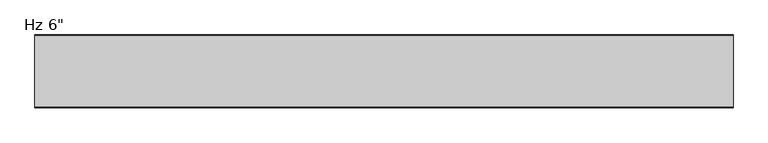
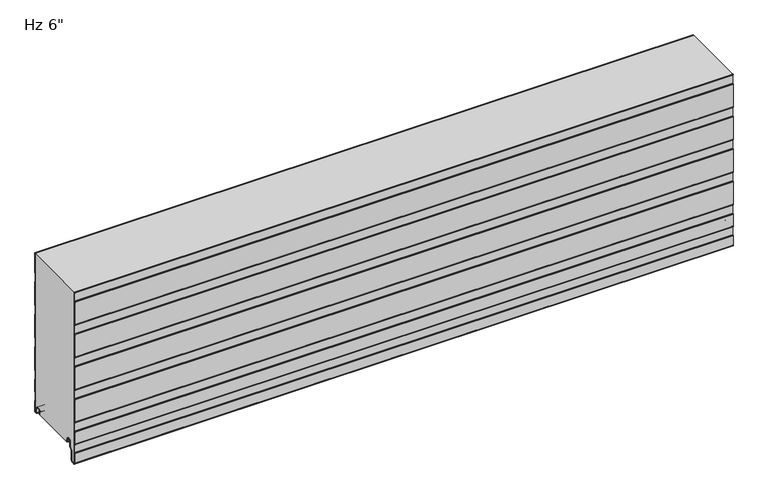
"""IFC4 building model written with IfcOpenShell, lengths in millimetres: plate geometry."""

from ifc_helpers import new_model, si_unit, point, frame, frame_2d, origin, place, context, project, spatial, polyline, circle_curve, trimmed, segment, composite_curve, outline, extrude, source, transform, mapped, element, save
from ifc_brep_helpers import plane_surface, cylinder_surface, revolved_surface, advanced_brep


def plate_0e54a912(model_context):
    return source(origin(), model_context, "Body", "SolidModel", [
        extrude(outline(composite_curve([segment(trimmed(circle_curve(frame_2d((-150.9998717, -10.6415934)), 1.3998661), [point((-152.3997378, -10.6415934))], [point((-151.9324955, -9.5976403))], False, "CARTESIAN"), True, "CONTINUOUS"), segment(polyline([(-151.9324955, -9.5976403), (-151.1997693, -8.8649141), (-151.1997693, 10.0260713), (-151.9327349, 10.7590369)]), True, "CONTINUOUS"), segment(trimmed(circle_curve(frame_2d((-151.0000237, 11.8030877)), 1.3999972), [point((-151.9327349, 10.7590369))], [point((-152.4, 11.810741))], False, "CARTESIAN"), True, "CONTINUOUS"), segment(polyline([(-152.4, 11.810741), (-152.4, 40.1582542)]), True, "CONTINUOUS"), segment(trimmed(circle_curve(frame_2d((-151.0000028, 40.1582542)), 1.3999972), [point((-152.4, 40.1582542))], [point((-151.932714, 41.202305))], False, "CARTESIAN"), True, "CONTINUOUS"), segment(polyline([(-151.932714, 41.202305), (-151.1997693, 41.9352497), (-151.1997693, 60.8259189), (-151.9327349, 61.5588845)]), True, "CONTINUOUS"), segment(trimmed(circle_curve(frame_2d((-151.0000237, 62.6029353)), 1.3999972), [point((-151.9327349, 61.5588845))], [point((-152.4, 62.6105886))], False, "CARTESIAN"), True, "CONTINUOUS"), segment(polyline([(-152.4, 62.6105886), (-152.4, 116.3581018)]), True, "CONTINUOUS"), segment(trimmed(circle_curve(frame_2d((-151.0000028, 116.3581018)), 1.3999972), [point((-152.4, 116.3581018))], [point((-151.932714, 117.4021526))], False, "CARTESIAN"), True, "CONTINUOUS"), segment(polyline([(-151.932714, 117.4021526), (-151.1997693, 118.1350973), (-151.1997693, 137.0257665), (-151.9327349, 137.7587321)]), True, "CONTINUOUS"), segment(trimmed(circle_curve(frame_2d((-151.0000237, 138.8027829)), 1.3999972), [point((-151.9327349, 137.7587321))], [point((-152.4, 138.8104362))], False, "CARTESIAN"), True, "CONTINUOUS"), segment(polyline([(-152.4, 138.8104362), (-152.4, 192.5579494)]), True, "CONTINUOUS"), segment(trimmed(circle_curve(frame_2d((-151.0000028, 192.5579494)), 1.3999972), [point((-152.4, 192.5579494))], [point((-151.932714, 193.6020002))], False, "CARTESIAN"), True, "CONTINUOUS"), segment(polyline([(-151.932714, 193.6020002), (-151.1997693, 194.3349449), (-151.1997693, 213.2256141), (-151.9327349, 213.9585797)]), True, "CONTINUOUS"), segment(trimmed(circle_curve(frame_2d((-151.0000237, 215.0026305)), 1.3999972), [point((-151.9327349, 213.9585797))], [point((-152.4, 215.0102838))], False, "CARTESIAN"), True, "CONTINUOUS"), segment(polyline([(-152.4, 215.0102838), (-152.4, 268.757797)]), True, "CONTINUOUS"), segment(trimmed(circle_curve(frame_2d((-151.0000028, 268.757797)), 1.3999972), [point((-152.4, 268.757797))], [point((-151.932714, 269.8018478))], False, "CARTESIAN"), True, "CONTINUOUS"), segment(polyline([(-151.932714, 269.8018478), (-151.1997693, 270.5347925), (-151.1997693, 289.4254617), (-151.9327349, 290.1584273)]), True, "CONTINUOUS"), segment(trimmed(circle_curve(frame_2d((-151.0000237, 291.2024781)), 1.3999972), [point((-151.9327349, 290.1584273))], [point((-152.4, 291.2101314))], False, "CARTESIAN"), True, "CONTINUOUS"), segment(polyline([(-152.4, 291.2101314), (-152.4, 344.9576446)]), True, "CONTINUOUS"), segment(trimmed(circle_curve(frame_2d((-151.0000028, 344.9576446)), 1.3999972), [point((-152.4, 344.9576446))], [point((-151.932714, 346.0016954))], False, "CARTESIAN"), True, "CONTINUOUS"), segment(polyline([(-151.932714, 346.0016954), (-151.1997693, 346.7346401), (-151.1997693, 365.6253093), (-151.9327349, 366.3582749)]), True, "CONTINUOUS"), segment(trimmed(circle_curve(frame_2d((-151.0000237, 367.4023257)), 1.3999972), [point((-151.9327349, 366.3582749))], [point((-152.4, 367.409979))], False, "CARTESIAN"), True, "CONTINUOUS"), segment(polyline([(-152.4, 367.409979), (-152.4, 368.0), (-151.4, 368.0), (-151.4, 367.240544), (-150.1997693, 366.0403133), (-150.1997693, 346.3209008), (-151.4, 345.1206701), (-151.4, 291.0405383), (-150.1997693, 289.8403076), (-150.1997693, 270.1208951), (-151.4, 268.9206644), (-151.4, 214.8405326), (-150.1997693, 213.6403019), (-150.1997693, 193.9208894), (-151.4, 192.7206587), (-151.4, 138.6405269), (-150.1997693, 137.4402962), (-150.1997693, 117.7208837), (-151.4, 116.520653), (-151.4, 62.4405213), (-150.1997693, 61.2402905), (-150.1997693, 41.520878), (-151.4, 40.3206473), (-151.4, 11.6405156), (-150.1997693, 10.4402849), (-150.1997693, -9.2791277), (-151.3997378, -10.4790962), (-151.3997378, -32.4521176)]), True, "CONTINUOUS"), segment(trimmed(circle_curve(frame_2d((-148.8294985, -32.4521176)), 2.5702393), [point((-151.3997378, -32.4521176))], [point((-148.6054129, -35.0125699))], True, "CARTESIAN"), True, "CONTINUOUS"), segment(polyline([(-148.6054129, -35.0125699), (-143.623592, -34.5765709)]), True, "CONTINUOUS"), segment(trimmed(circle_curve(frame_2d((-144.1049826, -31.9198392)), 2.6999926), [point((-143.623592, -34.5765709))], [point((-141.40499, -31.9198392))], True, "CARTESIAN"), True, "CONTINUOUS"), segment(polyline([(-141.40499, -31.9198392), (-141.40499, -9.8247096), (-135.9029189, -4.3226385)]), True, "CONTINUOUS"), segment(trimmed(circle_curve(frame_2d((-137.1049966, -3.1205608)), 1.6999946), [point((-135.9029189, -4.3226385))], [point((-135.405002, -3.1205608))], True, "CARTESIAN"), True, "CONTINUOUS"), segment(polyline([(-135.405002, -3.1205608), (-135.405002, 8.6903283)]), True, "CONTINUOUS"), segment(trimmed(circle_curve(frame_2d((-132.0550067, 8.6903283)), 3.3499953), [point((-135.405002, 8.6903283))], [point((-132.0550067, 12.0403236))], False, "CARTESIAN"), True, "CONTINUOUS"), segment(polyline([(-132.0550067, 12.0403236), (-127.6550155, 12.0403236)]), True, "CONTINUOUS"), segment(trimmed(circle_curve(frame_2d((-127.6550155, 8.6903283)), 3.3499953), [point((-127.6550155, 12.0403236))], [point((-124.3050202, 8.6903283))], False, "CARTESIAN"), True, "CONTINUOUS"), segment(polyline([(-124.3050202, 8.6903283), (-124.3050202, 5.9912173), (-122.9065413, 5.9912173), (-122.9065413, 2.2328239)]), True, "CONTINUOUS"), segment(trimmed(circle_curve(frame_2d((-124.106538, 2.2313092)), 1.1999976), [point((-122.9065413, 2.2328239))], [point((-124.0760161, 1.0316999))], False, "CARTESIAN"), True, "CONTINUOUS"), segment(trimmed(circle_curve(frame_2d((-124.106538, 2.2313092)), 1.1999976), [point((-124.0760161, 1.0316999))], [point((-125.3050202, 2.1710221))], False, "CARTESIAN"), True, "CONTINUOUS"), segment(polyline([(-125.3050202, 2.1710221), (-125.3050202, 8.6903283)]), True, "CONTINUOUS"), segment(trimmed(circle_curve(frame_2d((-127.6550155, 8.6903283)), 2.3499953), [point((-125.3050202, 8.6903283))], [point((-127.6550155, 11.0403236))], True, "CARTESIAN"), True, "CONTINUOUS"), segment(polyline([(-127.6550155, 11.0403236), (-132.0550067, 11.0403236)]), True, "CONTINUOUS"), segment(trimmed(circle_curve(frame_2d((-132.0550067, 8.6903283)), 2.3499953), [point((-132.0550067, 11.0403236))], [point((-134.405002, 8.6903283))], True, "CARTESIAN"), True, "CONTINUOUS"), segment(polyline([(-134.405002, 8.6903283), (-134.405002, -3.1205608)]), True, "CONTINUOUS"), segment(trimmed(circle_curve(frame_2d((-137.1049966, -3.1205608)), 2.6999946), [point((-134.405002, -3.1205608))], [point((-135.1958121, -5.0297453))], False, "CARTESIAN"), True, "CONTINUOUS"), segment(polyline([(-135.1958121, -5.0297453), (-140.0242296, -9.8581627)]), True, "CONTINUOUS"), segment(trimmed(circle_curve(frame_2d((-139.1049926, -10.7773997)), 1.2999974), [point((-140.0242296, -9.8581627))], [point((-140.40499, -10.7773997))], True, "CARTESIAN"), True, "CONTINUOUS"), segment(polyline([(-140.40499, -10.7773997), (-140.40499, -31.9198392)]), True, "CONTINUOUS"), segment(trimmed(circle_curve(frame_2d((-144.1049826, -31.9198392)), 3.6999926), [point((-140.40499, -31.9198392))], [point((-143.4941815, -35.5690675))], False, "CARTESIAN"), True, "CONTINUOUS"), segment(polyline([(-143.4941815, -35.5690675), (-148.5182281, -36.008762)]), True, "CONTINUOUS"), segment(trimmed(circle_curve(frame_2d((-148.8294985, -32.4521176)), 3.5702393), [point((-148.5182281, -36.008762))], [point((-152.3997378, -32.4521176))], False, "CARTESIAN"), True, "CONTINUOUS"), segment(polyline([(-152.3997378, -32.4521176), (-152.3997378, -10.6415934)]), True, "CONTINUOUS")], self_intersect=False)), frame((-730.0, 0.0, 0.0), z_axis=(1.0, 0.0, 0.0), x_axis=(0.0, 1.0, 0.0)), (0.0, 0.0, 1.0), 1460.0),
        advanced_brep(
        [(-730.0, -17.0015159, 2.0313088), (-730.0, -18.0015191, 1.0313115), (-730.0, -19.0015105, 2.0313088), (-730.0, -19.0015105, 6.0315124), (-730.0, -18.0015159, 6.0315124), (-730.0, -18.0015159, 8.7237222), (-730.0, -14.7015202, 12.0237179), (-730.0, -10.301529, 12.0237179), (-730.0, -7.0015335, 8.7237224), (-730.0, -7.0015335, -1.6962565), (-730.0, -5.2315393, -3.4662507), (-730.0, -0.9999916, -3.4662507), (-730.0, -0.9999916, 21.034026), (-730.0, -2.2002307, 22.4196686), (-730.0, -2.2002307, 41.7948349), (-730.0, -1.0, 43.1804678), (-730.0, -1.0, 71.8338832), (-730.0, -2.2002307, 73.2195162), (-730.0, -2.2002307, 92.5946825), (-730.0, -1.0, 93.9803154), (-730.0, -1.0, 148.0337308), (-730.0, -2.2002307, 149.4193638), (-730.0, -2.2002307, 168.7945301), (-730.0, -1.0, 170.180163), (-730.0, -1.0, 224.2335784), (-730.0, -2.2002307, 225.6192114), (-730.0, -2.2002307, 244.9943777), (-730.0, -1.0, 246.3800106), (-730.0, -1.0, 300.433426), (-730.0, -2.2002307, 301.819059), (-730.0, -2.2002307, 321.1942253), (-730.0, -1.0, 322.5798582), (-730.0, -1.0, 368.0), (-730.0, 0.0, 368.0), (-730.0, 0.0, 322.7290094), (-730.0, -0.3417885, 321.8123925), (-730.0, -1.2002307, 320.8213449), (-730.0, -1.2002307, 302.1919394), (-730.0, -0.3417885, 301.2008918), (-730.0, 0.0, 300.2842749), (-730.0, 0.0, 246.5291618), (-730.0, -0.3417885, 245.6125449), (-730.0, -1.2002307, 244.6214973), (-730.0, -1.2002307, 225.9920918), (-730.0, -0.3417885, 225.0010442), (-730.0, 0.0, 224.0844273), (-730.0, 0.0, 170.3293142), (-730.0, -0.3417885, 169.4126973), (-730.0, -1.2002307, 168.4216497), (-730.0, -1.2002307, 149.7922442), (-730.0, -0.3417885, 148.8011966), (-730.0, 0.0, 147.8845797), (-730.0, 0.0, 94.1294666), (-730.0, -0.3417885, 93.2128497), (-730.0, -1.2002307, 92.2218021), (-730.0, -1.2002307, 73.5923966), (-730.0, -0.3417885, 72.601349), (-730.0, 0.0, 71.6847321), (-730.0, 0.0, 43.329619), (-730.0, -0.3417885, 42.4130021), (-730.0, -1.2002307, 41.4219545), (-730.0, -1.2002307, 22.792549), (-730.0, -0.3417885, 21.8015014), (-730.0, 0.0, 20.8847931), (-730.0, 8.4e-06, -3.0662545), (-730.0, -1.3999878, -4.4662507), (-730.0, -5.2315393, -4.4662507), (-730.0, -8.0015335, -1.6962565), (-730.0, -8.0015335, 8.7237224), (-730.0, -10.301529, 11.0237179), (-730.0, -14.7015202, 11.0237179), (-730.0, -17.0015159, 8.7237222), (730.0, -17.0015159, 2.0313088), (730.0, -17.0015159, 8.7237222), (730.0, -14.7015202, 11.0237179), (730.0, -10.301529, 11.0237179), (730.0, -8.0015335, 8.7237224), (730.0, -8.0015335, -1.6962565), (730.0, -5.2315393, -4.4662507), (730.0, -1.3999878, -4.4662507), (730.0, 8.4e-06, -3.0662545), (730.0, 8.4e-06, 20.8848845), (730.0, -0.3417885, 21.8015014), (730.0, -1.2002307, 22.792549), (730.0, -1.2002307, 41.4219545), (730.0, -0.3417885, 42.4130021), (730.0, 0.0, 43.329619), (730.0, 0.0, 71.6847321), (730.0, -0.3417885, 72.601349), (730.0, -1.2002307, 73.5923966), (730.0, -1.2002307, 92.2218021), (730.0, -0.3417885, 93.2128497), (730.0, 0.0, 94.1294666), (730.0, 0.0, 147.8845797), (730.0, -0.3417885, 148.8011966), (730.0, -1.2002307, 149.7922442), (730.0, -1.2002307, 168.4216497), (730.0, -0.3417885, 169.4126973), (730.0, 0.0, 170.3293142), (730.0, 0.0, 224.0844273), (730.0, -0.3417885, 225.0010442), (730.0, -1.2002307, 225.9920918), (730.0, -1.2002307, 244.6214973), (730.0, -0.3417885, 245.6125449), (730.0, 0.0, 246.5291618), (730.0, 0.0, 300.2842749), (730.0, -0.3417885, 301.2008918), (730.0, -1.2002307, 302.1919394), (730.0, -1.2002307, 320.8213449), (730.0, -0.3417885, 321.8123925), (730.0, 0.0, 322.7290094), (730.0, 0.0, 368.0), (730.0, -1.0, 368.0), (730.0, -1.0, 322.5798582), (730.0, -2.2002307, 321.1942253), (730.0, -2.2002307, 301.819059), (730.0, -1.0, 300.433426), (730.0, -1.0, 246.3800106), (730.0, -2.2002307, 244.9943777), (730.0, -2.2002307, 225.6192114), (730.0, -1.0, 224.2335784), (730.0, -1.0, 170.180163), (730.0, -2.2002307, 168.7945301), (730.0, -2.2002307, 149.4193638), (730.0, -1.0, 148.0337308), (730.0, -1.0, 93.9803154), (730.0, -2.2002307, 92.5946825), (730.0, -2.2002307, 73.2195162), (730.0, -1.0, 71.8338832), (730.0, -1.0, 43.1804678), (730.0, -2.2002307, 41.7948349), (730.0, -2.2002307, 22.4196686), (730.0, -0.9999916, 21.034026), (730.0, -0.9999916, -3.4662507), (730.0, -5.2315393, -3.4662507), (730.0, -7.0015335, -1.6962565), (730.0, -7.0015335, 8.7237224), (730.0, -10.301529, 12.0237179), (730.0, -14.7015202, 12.0237179), (730.0, -18.0015159, 8.7237222), (730.0, -18.0015159, 6.0315124), (730.0, -19.0015105, 6.0315124), (730.0, -19.0015105, 2.0313088), (730.0, -18.0015192, 1.0313116)],
        [
            (0, 1, circle_curve(frame((-730.0, -18.0015132, 2.0313088), z_axis=(-1.0, 0.0, 0.0), x_axis=(0.0, 0.0, 1.0)), 0.9999973)),
            (1, 2, circle_curve(frame((-730.0, -18.0015133, 2.0313088), z_axis=(-1.0, 0.0, 0.0), x_axis=(0.0, 0.0, 1.0)), 0.9999972)),
            (2, 3),
            (3, 4),
            (4, 5),
            (5, 6, circle_curve(frame((-730.0, -14.7015202, 8.7237222), z_axis=(-1.0, 0.0, 0.0), x_axis=(0.0, 0.0, 1.0)), 3.2999957)),
            (6, 7),
            (7, 8, circle_curve(frame((-730.0, -10.301529, 8.7237224), z_axis=(-1.0, 0.0, 0.0), x_axis=(0.0, 0.0, 1.0)), 3.2999955)),
            (8, 9),
            (9, 10, circle_curve(frame((-730.0, -5.2315393, -1.6962565), z_axis=(1.0, 0.0, 0.0), x_axis=(0.0, 0.0, 1.0)), 1.7699942)),
            (10, 11),
            (11, 12),
            (12, 13),
            (13, 14),
            (14, 15),
            (15, 16),
            (16, 17),
            (17, 18),
            (18, 19),
            (19, 20),
            (20, 21),
            (21, 22),
            (22, 23),
            (23, 24),
            (24, 25),
            (25, 26),
            (26, 27),
            (27, 28),
            (28, 29),
            (29, 30),
            (30, 31),
            (31, 32),
            (32, 33),
            (33, 34),
            (34, 35, circle_curve(frame((-730.0, -1.3999972, 322.7290094), z_axis=(-1.0, 0.0, 0.0), x_axis=(0.0, 0.0, 1.0)), 1.3999972)),
            (35, 36),
            (36, 37),
            (37, 38),
            (38, 39, circle_curve(frame((-730.0, -1.3999972, 300.2842749), z_axis=(-1.0, 0.0, 0.0), x_axis=(0.0, 0.0, 1.0)), 1.3999972)),
            (39, 40),
            (40, 41, circle_curve(frame((-730.0, -1.3999972, 246.5291618), z_axis=(-1.0, 0.0, 0.0), x_axis=(0.0, 0.0, 1.0)), 1.3999972)),
            (41, 42),
            (42, 43),
            (43, 44),
            (44, 45, circle_curve(frame((-730.0, -1.3999972, 224.0844273), z_axis=(-1.0, 0.0, 0.0), x_axis=(0.0, 0.0, 1.0)), 1.3999972)),
            (45, 46),
            (46, 47, circle_curve(frame((-730.0, -1.3999972, 170.3293142), z_axis=(-1.0, 0.0, 0.0), x_axis=(0.0, 0.0, 1.0)), 1.3999972)),
            (47, 48),
            (48, 49),
            (49, 50),
            (50, 51, circle_curve(frame((-730.0, -1.3999972, 147.8845797), z_axis=(-1.0, 0.0, 0.0), x_axis=(0.0, 0.0, 1.0)), 1.3999972)),
            (51, 52),
            (52, 53, circle_curve(frame((-730.0, -1.3999972, 94.1294666), z_axis=(-1.0, 0.0, 0.0), x_axis=(0.0, 0.0, 1.0)), 1.3999972)),
            (53, 54),
            (54, 55),
            (55, 56),
            (56, 57, circle_curve(frame((-730.0, -1.3999972, 71.6847321), z_axis=(-1.0, 0.0, 0.0), x_axis=(0.0, 0.0, 1.0)), 1.3999972)),
            (57, 58),
            (58, 59, circle_curve(frame((-730.0, -1.3999972, 43.329619), z_axis=(-1.0, 0.0, 0.0), x_axis=(0.0, 0.0, 1.0)), 1.3999972)),
            (59, 60),
            (60, 61),
            (61, 62),
            (62, 63, circle_curve(frame((-730.0, -1.3999972, 20.8848845), z_axis=(-1.0, 0.0, 0.0), x_axis=(0.0, 0.0, 1.0)), 1.3999972)),
            (63, 64),
            (64, 65, circle_curve(frame((-730.0, -1.3999878, -3.0662545), z_axis=(-1.0, 0.0, 0.0), x_axis=(0.0, 0.0, 1.0)), 1.3999962)),
            (65, 66),
            (66, 67, circle_curve(frame((-730.0, -5.2315393, -1.6962565), z_axis=(-1.0, 0.0, 0.0), x_axis=(0.0, 0.0, 1.0)), 2.7699942)),
            (67, 68),
            (68, 69, circle_curve(frame((-730.0, -10.301529, 8.7237224), z_axis=(1.0, 0.0, 0.0), x_axis=(0.0, 0.0, 1.0)), 2.2999955)),
            (69, 70),
            (70, 71, circle_curve(frame((-730.0, -14.7015202, 8.7237222), z_axis=(1.0, 0.0, 0.0), x_axis=(0.0, 0.0, 1.0)), 2.2999957)),
            (71, 0),
            (72, 73),
            (73, 74, circle_curve(frame((730.0, -14.7015202, 8.7237222), z_axis=(-1.0, 0.0, 0.0), x_axis=(0.0, 0.0, 1.0)), 2.2999957)),
            (74, 75),
            (75, 76, circle_curve(frame((730.0, -10.301529, 8.7237224), z_axis=(-1.0, 0.0, 0.0), x_axis=(0.0, 0.0, 1.0)), 2.2999955)),
            (76, 77),
            (77, 78, circle_curve(frame((730.0, -5.2315393, -1.6962565), z_axis=(1.0, 0.0, 0.0), x_axis=(0.0, 0.0, 1.0)), 2.7699942)),
            (78, 79),
            (79, 80, circle_curve(frame((730.0, -1.3999878, -3.0662545), z_axis=(1.0, 0.0, 0.0), x_axis=(0.0, 0.0, 1.0)), 1.3999962)),
            (80, 81),
            (81, 82, circle_curve(frame((730.0, -1.3999972, 20.8848845), z_axis=(1.0, 0.0, 0.0), x_axis=(0.0, 0.0, 1.0)), 1.3999972)),
            (82, 83),
            (83, 84),
            (84, 85),
            (85, 86, circle_curve(frame((730.0, -1.3999972, 43.329619), z_axis=(1.0, 0.0, 0.0), x_axis=(0.0, 0.0, 1.0)), 1.3999972)),
            (86, 87),
            (87, 88, circle_curve(frame((730.0, -1.3999972, 71.6847321), z_axis=(1.0, 0.0, 0.0), x_axis=(0.0, 0.0, 1.0)), 1.3999972)),
            (88, 89),
            (89, 90),
            (90, 91),
            (91, 92, circle_curve(frame((730.0, -1.3999972, 94.1294666), z_axis=(1.0, 0.0, 0.0), x_axis=(0.0, 0.0, 1.0)), 1.3999972)),
            (92, 93),
            (93, 94, circle_curve(frame((730.0, -1.3999972, 147.8845797), z_axis=(1.0, 0.0, 0.0), x_axis=(0.0, 0.0, 1.0)), 1.3999972)),
            (94, 95),
            (95, 96),
            (96, 97),
            (97, 98, circle_curve(frame((730.0, -1.3999972, 170.3293142), z_axis=(1.0, 0.0, 0.0), x_axis=(0.0, 0.0, 1.0)), 1.3999972)),
            (98, 99),
            (99, 100, circle_curve(frame((730.0, -1.3999972, 224.0844273), z_axis=(1.0, 0.0, 0.0), x_axis=(0.0, 0.0, 1.0)), 1.3999972)),
            (100, 101),
            (101, 102),
            (102, 103),
            (103, 104, circle_curve(frame((730.0, -1.3999972, 246.5291618), z_axis=(1.0, 0.0, 0.0), x_axis=(0.0, 0.0, 1.0)), 1.3999972)),
            (104, 105),
            (105, 106, circle_curve(frame((730.0, -1.3999972, 300.2842749), z_axis=(1.0, 0.0, 0.0), x_axis=(0.0, 0.0, 1.0)), 1.3999972)),
            (106, 107),
            (107, 108),
            (108, 109),
            (109, 110, circle_curve(frame((730.0, -1.3999972, 322.7290094), z_axis=(1.0, 0.0, 0.0), x_axis=(0.0, 0.0, 1.0)), 1.3999972)),
            (110, 111),
            (111, 112),
            (112, 113),
            (113, 114),
            (114, 115),
            (115, 116),
            (116, 117),
            (117, 118),
            (118, 119),
            (119, 120),
            (120, 121),
            (121, 122),
            (122, 123),
            (123, 124),
            (124, 125),
            (125, 126),
            (126, 127),
            (127, 128),
            (128, 129),
            (129, 130),
            (130, 131),
            (131, 132),
            (132, 133),
            (133, 134),
            (134, 135, circle_curve(frame((730.0, -5.2315393, -1.6962565), z_axis=(-1.0, 0.0, 0.0), x_axis=(0.0, 0.0, 1.0)), 1.7699942)),
            (135, 136),
            (136, 137, circle_curve(frame((730.0, -10.301529, 8.7237224), z_axis=(1.0, 0.0, 0.0), x_axis=(0.0, 0.0, 1.0)), 3.2999955)),
            (137, 138),
            (138, 139, circle_curve(frame((730.0, -14.7015202, 8.7237222), z_axis=(1.0, 0.0, 0.0), x_axis=(0.0, 0.0, 1.0)), 3.2999957)),
            (139, 140),
            (140, 141),
            (141, 142),
            (142, 143, circle_curve(frame((730.0, -18.0015133, 2.0313088), z_axis=(1.0, 0.0, 0.0), x_axis=(0.0, 0.0, 1.0)), 0.9999972)),
            (143, 72, circle_curve(frame((730.0, -18.0015132, 2.0313088), z_axis=(1.0, 0.0, 0.0), x_axis=(0.0, 0.0, 1.0)), 0.9999973)),
            (32, 112),
            (111, 33),
            (67, 77),
            (76, 68),
            (0, 72),
            (143, 1),
            (71, 73),
            (70, 74),
            (75, 69),
            (65, 79),
            (78, 66),
            (64, 80),
            (63, 81),
            (2, 142),
            (141, 3),
            (56, 88),
            (87, 57),
            (61, 83),
            (82, 62),
            (60, 84),
            (58, 86),
            (85, 59),
            (50, 94),
            (93, 51),
            (54, 90),
            (89, 55),
            (52, 92),
            (91, 53),
            (44, 100),
            (99, 45),
            (48, 96),
            (95, 49),
            (46, 98),
            (97, 47),
            (38, 106),
            (105, 39),
            (42, 102),
            (101, 43),
            (40, 104),
            (103, 41),
            (36, 108),
            (107, 37),
            (34, 110),
            (109, 35),
            (27, 117),
            (116, 28),
            (115, 29),
            (114, 30),
            (113, 31),
            (26, 118),
            (25, 119),
            (24, 120),
            (23, 121),
            (22, 122),
            (21, 123),
            (20, 124),
            (19, 125),
            (18, 126),
            (17, 127),
            (16, 128),
            (15, 129),
            (14, 130),
            (140, 4),
            (139, 5),
            (138, 6),
            (137, 7),
            (136, 8),
            (135, 9),
            (12, 132),
            (131, 13),
            (11, 133),
            (10, 134),
        ],
        [
            plane_surface(frame((-730.0, 0.0, 508.0), z_axis=(-1.0, 0.0, 0.0), x_axis=(0.0, 1.0, 0.0))),
            plane_surface(frame((730.0, 0.0, 508.0), z_axis=(1.0, 0.0, 0.0), x_axis=(0.0, 1.0, 0.0))),
            plane_surface(frame((730.0, 10.0, 368.0), z_axis=(0.0, 0.0, 1.0), x_axis=(-1.0, 0.0, 0.0))),
            plane_surface(frame((-730.0, -8.0015335, 8.7237224), z_axis=(0.0, -1.0, 0.0), x_axis=(1.0, 0.0, 0.0))),
            cylinder_surface(frame((-730.0, -18.0015132, 2.0313088), z_axis=(-1.0, 0.0, 0.0), x_axis=(0.0, 0.0, 1.0)), 0.9999973),
            plane_surface(frame((-730.0, -17.0015159, 2.0313088), z_axis=(0.0, 1.0, 0.0), x_axis=(1.0, 0.0, 0.0))),
            revolved_surface(polyline([(730.0, -14.7015202, 11.0237179), (-730.0, -14.7015202, 11.0237179)]), (-730.0, -14.7015202, 8.7237222), (1.0, 0.0, 0.0)),
            revolved_surface(polyline([(730.0, -10.301529, 11.0237179), (-730.0, -10.301529, 11.0237179)]), (-730.0, -10.301529, 8.7237224), (1.0, 0.0, 0.0)),
            plane_surface(frame((-730.0, -14.7015202, 11.0237179), z_axis=(0.0, 0.0, -1.0), x_axis=(1.0, 0.0, 0.0))),
            plane_surface(frame((-730.0, -5.2315393, -4.4662507), z_axis=(0.0, 0.0, -1.0), x_axis=(1.0, 0.0, 0.0))),
            cylinder_surface(frame((-730.0, -1.3999878, -3.0662545), z_axis=(-1.0, 0.0, 0.0), x_axis=(0.0, 0.0, 1.0)), 1.3999962),
            cylinder_surface(frame((-730.0, -5.2315393, -1.6962565), z_axis=(-1.0, 0.0, 0.0), x_axis=(0.0, 0.0, 1.0)), 2.7699942),
            plane_surface(frame((-730.0, 8.4e-06, -3.0662545), z_axis=(0.0, 1.0, 0.0), x_axis=(1.0, 0.0, 0.0))),
            plane_surface(frame((-730.0, -19.0015105, 6.0315124), z_axis=(0.0, -1.0, 0.0), x_axis=(1.0, 0.0, 0.0))),
            cylinder_surface(frame((-730.0, -18.0015133, 2.0313088), z_axis=(-1.0, 0.0, 0.0), x_axis=(0.0, 0.0, 1.0)), 0.9999972),
            cylinder_surface(frame((-730.0, -1.3999972, 71.6847321), z_axis=(-1.0, 0.0, 0.0), x_axis=(0.0, 0.0, 1.0)), 1.3999972),
            plane_surface(frame((-730.0, -0.3417885, 21.8015014), z_axis=(0.0, 0.755864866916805, 0.6547276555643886), x_axis=(1.0, 0.0, 0.0))),
            plane_surface(frame((-730.0, -1.2002307, 32.1072517), z_axis=(0.0, 1.0, 0.0), x_axis=(1.0, 0.0, 0.0))),
            cylinder_surface(frame((-730.0, -1.3999972, 20.8848845), z_axis=(-1.0, 0.0, 0.0), x_axis=(0.0, 0.0, 1.0)), 1.3999972),
            cylinder_surface(frame((-730.0, -1.3999972, 43.329619), z_axis=(-1.0, 0.0, 0.0), x_axis=(0.0, 0.0, 1.0)), 1.3999972),
            plane_surface(frame((-730.0, -1.2002307, 41.4219545), z_axis=(0.0, 0.755864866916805, -0.6547276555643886), x_axis=(1.0, 0.0, 0.0))),
            cylinder_surface(frame((-730.0, -1.3999972, 147.8845797), z_axis=(-1.0, 0.0, 0.0), x_axis=(0.0, 0.0, 1.0)), 1.3999972),
            plane_surface(frame((-730.0, -1.2002307, 82.9070993), z_axis=(0.0, 1.0, 0.0), x_axis=(1.0, 0.0, 0.0))),
            cylinder_surface(frame((-730.0, -1.3999972, 94.1294666), z_axis=(-1.0, 0.0, 0.0), x_axis=(0.0, 0.0, 1.0)), 1.3999972),
            plane_surface(frame((-730.0, -0.3417885, 72.601349), z_axis=(0.0, 0.755864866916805, 0.6547276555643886), x_axis=(1.0, 0.0, 0.0))),
            plane_surface(frame((-730.0, -1.2002307, 92.2218021), z_axis=(0.0, 0.755864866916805, -0.6547276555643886), x_axis=(1.0, 0.0, 0.0))),
            plane_surface(frame((-730.0, 0.0, 43.329619), z_axis=(0.0, 1.0, 0.0), x_axis=(1.0, 0.0, 0.0))),
            cylinder_surface(frame((-730.0, -1.3999972, 224.0844273), z_axis=(-1.0, 0.0, 0.0), x_axis=(0.0, 0.0, 1.0)), 1.3999972),
            plane_surface(frame((-730.0, -1.2002307, 159.1069469), z_axis=(0.0, 1.0, 0.0), x_axis=(1.0, 0.0, 0.0))),
            cylinder_surface(frame((-730.0, -1.3999972, 170.3293142), z_axis=(-1.0, 0.0, 0.0), x_axis=(0.0, 0.0, 1.0)), 1.3999972),
            plane_surface(frame((-730.0, -0.3417885, 148.8011966), z_axis=(0.0, 0.755864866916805, 0.6547276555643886), x_axis=(1.0, 0.0, 0.0))),
            plane_surface(frame((-730.0, -1.2002307, 168.4216497), z_axis=(0.0, 0.755864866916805, -0.6547276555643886), x_axis=(1.0, 0.0, 0.0))),
            plane_surface(frame((-730.0, 0.0, 94.1294666), z_axis=(0.0, 1.0, 0.0), x_axis=(1.0, 0.0, 0.0))),
            cylinder_surface(frame((-730.0, -1.3999972, 300.2842749), z_axis=(-1.0, 0.0, 0.0), x_axis=(0.0, 0.0, 1.0)), 1.3999972),
            plane_surface(frame((-730.0, -1.2002307, 235.3067945), z_axis=(0.0, 1.0, 0.0), x_axis=(1.0, 0.0, 0.0))),
            cylinder_surface(frame((-730.0, -1.3999972, 246.5291618), z_axis=(-1.0, 0.0, 0.0), x_axis=(0.0, 0.0, 1.0)), 1.3999972),
            plane_surface(frame((-730.0, -0.3417885, 225.0010442), z_axis=(0.0, 0.755864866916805, 0.6547276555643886), x_axis=(1.0, 0.0, 0.0))),
            plane_surface(frame((-730.0, -1.2002307, 244.6214973), z_axis=(0.0, 0.755864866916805, -0.6547276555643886), x_axis=(1.0, 0.0, 0.0))),
            plane_surface(frame((-730.0, 0.0, 170.3293142), z_axis=(0.0, 1.0, 0.0), x_axis=(1.0, 0.0, 0.0))),
            plane_surface(frame((-730.0, -1.2002307, 311.5066421), z_axis=(0.0, 1.0, 0.0), x_axis=(1.0, 0.0, 0.0))),
            cylinder_surface(frame((-730.0, -1.3999972, 322.7290094), z_axis=(-1.0, 0.0, 0.0), x_axis=(0.0, 0.0, 1.0)), 1.3999972),
            plane_surface(frame((-730.0, -0.3417885, 301.2008918), z_axis=(0.0, 0.755864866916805, 0.6547276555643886), x_axis=(1.0, 0.0, 0.0))),
            plane_surface(frame((-730.0, -1.2002307, 320.8213449), z_axis=(0.0, 0.755864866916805, -0.6547276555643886), x_axis=(1.0, 0.0, 0.0))),
            plane_surface(frame((-730.0, 0.0, 246.5291618), z_axis=(0.0, 1.0, 0.0), x_axis=(1.0, 0.0, 0.0))),
            plane_surface(frame((-730.0, 0.0, 322.7290094), z_axis=(0.0, 1.0, 0.0), x_axis=(1.0, 0.0, 0.0))),
            plane_surface(frame((-730.0, -1.0, 300.433426), z_axis=(0.0, -1.0, 0.0), x_axis=(1.0, 0.0, 0.0))),
            plane_surface(frame((-730.0, -2.2002307, 301.819059), z_axis=(0.0, -0.755864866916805, -0.6547276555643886), x_axis=(1.0, 0.0, 0.0))),
            plane_surface(frame((-730.0, -2.2002307, 321.1942253), z_axis=(0.0, -1.0, 0.0), x_axis=(1.0, 0.0, 0.0))),
            plane_surface(frame((-730.0, -1.0, 322.5798582), z_axis=(0.0, -0.755864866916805, 0.6547276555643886), x_axis=(1.0, 0.0, 0.0))),
            plane_surface(frame((-730.0, -1.0, 376.6332736), z_axis=(0.0, -1.0, 0.0), x_axis=(1.0, 0.0, 0.0))),
            plane_surface(frame((-730.0, -1.0, 246.3800106), z_axis=(0.0, -0.755864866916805, 0.6547276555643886), x_axis=(1.0, 0.0, 0.0))),
            plane_surface(frame((-730.0, -2.2002307, 244.9943777), z_axis=(0.0, -1.0, 0.0), x_axis=(1.0, 0.0, 0.0))),
            plane_surface(frame((-730.0, -2.2002307, 225.6192114), z_axis=(0.0, -0.755864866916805, -0.6547276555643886), x_axis=(1.0, 0.0, 0.0))),
            plane_surface(frame((-730.0, -1.0, 224.2335784), z_axis=(0.0, -1.0, 0.0), x_axis=(1.0, 0.0, 0.0))),
            plane_surface(frame((-730.0, -1.0, 170.180163), z_axis=(0.0, -0.755864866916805, 0.6547276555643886), x_axis=(1.0, 0.0, 0.0))),
            plane_surface(frame((-730.0, -2.2002307, 168.7945301), z_axis=(0.0, -1.0, 0.0), x_axis=(1.0, 0.0, 0.0))),
            plane_surface(frame((-730.0, -2.2002307, 149.4193638), z_axis=(0.0, -0.755864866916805, -0.6547276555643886), x_axis=(1.0, 0.0, 0.0))),
            plane_surface(frame((-730.0, -1.0, 148.0337308), z_axis=(0.0, -1.0, 0.0), x_axis=(1.0, 0.0, 0.0))),
            plane_surface(frame((-730.0, -1.0, 93.9803154), z_axis=(0.0, -0.755864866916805, 0.6547276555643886), x_axis=(1.0, 0.0, 0.0))),
            plane_surface(frame((-730.0, -2.2002307, 92.5946825), z_axis=(0.0, -1.0, 0.0), x_axis=(1.0, 0.0, 0.0))),
            plane_surface(frame((-730.0, -2.2002307, 73.2195162), z_axis=(0.0, -0.755864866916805, -0.6547276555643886), x_axis=(1.0, 0.0, 0.0))),
            plane_surface(frame((-730.0, -1.0, 71.8338832), z_axis=(0.0, -1.0, 0.0), x_axis=(1.0, 0.0, 0.0))),
            plane_surface(frame((-730.0, -1.0, 43.1804678), z_axis=(0.0, -0.755864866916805, 0.6547276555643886), x_axis=(1.0, 0.0, 0.0))),
            plane_surface(frame((-730.0, -18.0015159, 6.0315124), z_axis=(0.0, 0.0, 1.0), x_axis=(1.0, 0.0, 0.0))),
            plane_surface(frame((-730.0, -18.0015159, 8.7237222), z_axis=(0.0, -1.0, 0.0), x_axis=(1.0, 0.0, 0.0))),
            cylinder_surface(frame((-730.0, -14.7015202, 8.7237222), z_axis=(-1.0, 0.0, 0.0), x_axis=(0.0, 0.0, 1.0)), 3.2999957),
            plane_surface(frame((-730.0, -10.301529, 12.0237179), z_axis=(0.0, 0.0, 1.0), x_axis=(1.0, 0.0, 0.0))),
            cylinder_surface(frame((-730.0, -10.301529, 8.7237224), z_axis=(-1.0, 0.0, 0.0), x_axis=(0.0, 0.0, 1.0)), 3.2999955),
            plane_surface(frame((-730.0, -7.0015335, -1.6962565), z_axis=(0.0, 1.0, 0.0), x_axis=(1.0, 0.0, 0.0))),
            plane_surface(frame((-730.0, -2.2002307, 22.4196686), z_axis=(0.0, -0.755864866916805, -0.6547276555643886), x_axis=(1.0, 0.0, 0.0))),
            plane_surface(frame((-730.0, -2.2002307, 41.7948349), z_axis=(0.0, -1.0, 0.0), x_axis=(1.0, 0.0, 0.0))),
            plane_surface(frame((-730.0, -0.9999916, 21.034026), z_axis=(0.0, -1.0, 0.0), x_axis=(1.0, 0.0, 0.0))),
            plane_surface(frame((-730.0, -0.9999916, -3.4662507), z_axis=(0.0, 0.0, 1.0), x_axis=(1.0, 0.0, 0.0))),
            revolved_surface(polyline([(730.0, -5.2315393, 0.0737376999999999), (-730.0, -5.2315393, 0.0737376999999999)]), (-730.0, -5.2315393, -1.6962565), (1.0, 0.0, 0.0)),
        ],
        [
            (0, [[1, 2, 3, 4, 5, 6, 7, 8, 9, 10, 11, 12, 13, 14, 15, 16, 17, 18, 19, 20, 21, 22, 23, 24, 25, 26, 27, 28, 29, 30, 31, 32, 33, 34, 35, 36, 37, 38, 39, 40, 41, 42, 43, 44, 45, 46, 47, 48, 49, 50, 51, 52, 53, 54, 55, 56, 57, 58, 59, 60, 61, 62, 63, 64, 65, 66, 67, 68, 69, 70, 71, 72]]),
            (1, [[73, 74, 75, 76, 77, 78, 79, 80, 81, 82, 83, 84, 85, 86, 87, 88, 89, 90, 91, 92, 93, 94, 95, 96, 97, 98, 99, 100, 101, 102, 103, 104, 105, 106, 107, 108, 109, 110, 111, 112, 113, 114, 115, 116, 117, 118, 119, 120, 121, 122, 123, 124, 125, 126, 127, 128, 129, 130, 131, 132, 133, 134, 135, 136, 137, 138, 139, 140, 141, 142, 143, 144]]),
            (2, [[145, -112, 146, -33]]),
            (3, [[147, -77, 148, -68]]),
            (4, [[149, -144, 150, -1]]),
            (5, [[151, -73, -149, -72]]),
            (6, [[152, -74, -151, -71]]),
            (7, [[-148, -76, 153, -69]]),
            (8, [[-153, -75, -152, -70]]),
            (9, [[154, -79, 155, -66]]),
            (10, [[156, -80, -154, -65]]),
            (11, [[-155, -78, -147, -67]]),
            (12, [[157, -81, -156, -64]]),
            (13, [[158, -142, 159, -3]]),
            (14, [[-150, -143, -158, -2]]),
            (15, [[160, -88, 161, -57]]),
            (16, [[162, -83, 163, -62]]),
            (17, [[164, -84, -162, -61]]),
            (18, [[-163, -82, -157, -63]]),
            (19, [[165, -86, 166, -59]]),
            (20, [[-166, -85, -164, -60]]),
            (21, [[167, -94, 168, -51]]),
            (22, [[169, -90, 170, -55]]),
            (23, [[171, -92, 172, -53]]),
            (24, [[-170, -89, -160, -56]]),
            (25, [[-172, -91, -169, -54]]),
            (26, [[-161, -87, -165, -58]]),
            (27, [[173, -100, 174, -45]]),
            (28, [[175, -96, 176, -49]]),
            (29, [[177, -98, 178, -47]]),
            (30, [[-176, -95, -167, -50]]),
            (31, [[-178, -97, -175, -48]]),
            (32, [[-168, -93, -171, -52]]),
            (33, [[179, -106, 180, -39]]),
            (34, [[181, -102, 182, -43]]),
            (35, [[183, -104, 184, -41]]),
            (36, [[-182, -101, -173, -44]]),
            (37, [[-184, -103, -181, -42]]),
            (38, [[-174, -99, -177, -46]]),
            (39, [[185, -108, 186, -37]]),
            (40, [[187, -110, 188, -35]]),
            (41, [[-186, -107, -179, -38]]),
            (42, [[-188, -109, -185, -36]]),
            (43, [[-180, -105, -183, -40]]),
            (44, [[-34, -146, -111, -187]]),
            (45, [[189, -117, 190, -28]]),
            (46, [[-190, -116, 191, -29]]),
            (47, [[-191, -115, 192, -30]]),
            (48, [[-192, -114, 193, -31]]),
            (49, [[-113, -145, -32, -193]]),
            (50, [[194, -118, -189, -27]]),
            (51, [[195, -119, -194, -26]]),
            (52, [[196, -120, -195, -25]]),
            (53, [[197, -121, -196, -24]]),
            (54, [[198, -122, -197, -23]]),
            (55, [[199, -123, -198, -22]]),
            (56, [[200, -124, -199, -21]]),
            (57, [[201, -125, -200, -20]]),
            (58, [[202, -126, -201, -19]]),
            (59, [[203, -127, -202, -18]]),
            (60, [[204, -128, -203, -17]]),
            (61, [[205, -129, -204, -16]]),
            (62, [[206, -130, -205, -15]]),
            (63, [[-159, -141, 207, -4]]),
            (64, [[-207, -140, 208, -5]]),
            (65, [[-208, -139, 209, -6]]),
            (66, [[-209, -138, 210, -7]]),
            (67, [[-210, -137, 211, -8]]),
            (68, [[-211, -136, 212, -9]]),
            (69, [[213, -132, 214, -13]]),
            (70, [[-214, -131, -206, -14]]),
            (71, [[215, -133, -213, -12]]),
            (72, [[216, -134, -215, -11]]),
            (73, [[-212, -135, -216, -10]]),
        ],
    ),
        extrude(outline(composite_curve([segment(trimmed(circle_curve(frame_2d((-124.106538, 2.2313092)), 1.1999976), [point((-124.0760161, 1.0316999))], [point((-122.9065413, 2.2328239))], True, "CARTESIAN"), True, "CONTINUOUS"), segment(polyline([(-122.9065413, 2.2328239), (-122.9065413, 5.9912173), (-124.3050202, 5.9912173), (-124.3050202, 8.6903283)]), True, "CONTINUOUS"), segment(trimmed(circle_curve(frame_2d((-127.6550155, 8.6903283)), 3.3499953), [point((-124.3050202, 8.6903283))], [point((-127.6550155, 12.0403236))], True, "CARTESIAN"), True, "CONTINUOUS"), segment(polyline([(-127.6550155, 12.0403236), (-132.0550067, 12.0403236)]), True, "CONTINUOUS"), segment(trimmed(circle_curve(frame_2d((-132.0550067, 8.6903283)), 3.3499953), [point((-132.0550067, 12.0403236))], [point((-135.405002, 8.6903283))], True, "CARTESIAN"), True, "CONTINUOUS"), segment(polyline([(-135.405002, 8.6903283), (-135.405002, -3.1205608)]), True, "CONTINUOUS"), segment(trimmed(circle_curve(frame_2d((-137.1049966, -3.1205608)), 1.6999946), [point((-135.405002, -3.1205608))], [point((-135.9029189, -4.3226385))], False, "CARTESIAN"), True, "CONTINUOUS"), segment(polyline([(-135.9029189, -4.3226385), (-141.40499, -9.8247096), (-141.40499, -31.9198392)]), True, "CONTINUOUS"), segment(trimmed(circle_curve(frame_2d((-144.1049826, -31.9198392)), 2.6999926), [point((-141.40499, -31.9198392))], [point((-143.623592, -34.5765709))], False, "CARTESIAN"), True, "CONTINUOUS"), segment(polyline([(-143.623592, -34.5765709), (-148.6054129, -35.0125699)]), True, "CONTINUOUS"), segment(trimmed(circle_curve(frame_2d((-148.8294985, -32.4521176)), 2.5702393), [point((-148.6054129, -35.0125699))], [point((-151.3997378, -32.4521176))], False, "CARTESIAN"), True, "CONTINUOUS"), segment(polyline([(-151.3997378, -32.4521176), (-151.3997378, -10.4790962), (-150.1997693, -9.2791277), (-150.1997693, 10.4402849), (-151.4, 11.6405156), (-151.4, 40.3206473), (-150.1997693, 41.520878), (-150.1997693, 61.2402905), (-151.4, 62.4405213), (-151.4, 116.520653), (-150.1997693, 117.7208837), (-150.1997693, 137.4402962), (-151.4, 138.6405269), (-151.4, 192.7206587), (-150.1997693, 193.9208894), (-150.1997693, 213.6403019), (-151.4, 214.8405326), (-151.4, 268.9206644), (-150.1997693, 270.1208951), (-150.1997693, 289.8403076), (-151.4, 291.0405383), (-151.4, 345.1206701), (-150.1997693, 346.3209008), (-150.1997693, 366.0403133), (-151.4, 367.240544), (-151.4, 368.0), (-1.0, 368.0), (-1.0, 322.5798583), (-2.2002307, 321.1942253), (-2.2002307, 301.819059), (-1.0, 300.4334261), (-1.0, 246.3800107), (-2.2002307, 244.9943777), (-2.2002307, 225.6192114), (-1.0, 224.2335785), (-1.0, 170.1801631), (-2.2002307, 168.7945301), (-2.2002307, 149.4193638), (-1.0, 148.0337309), (-1.0, 93.9803155), (-2.2002307, 92.5946825), (-2.2002307, 73.2195162), (-1.0, 71.8338833), (-1.0, 43.1804679), (-2.2002307, 41.7948349), (-2.2002307, 22.4196686), (-0.9999916, 21.034026), (-0.9999916, -3.4662506), (-5.2315389, -3.4662506)]), True, "CONTINUOUS"), segment(trimmed(circle_curve(frame_2d((-5.2315389, -1.6962564)), 1.7699942), [point((-5.2315389, -3.4662506))], [point((-7.0015331, -1.6962564))], False, "CARTESIAN"), True, "CONTINUOUS"), segment(polyline([(-7.0015331, -1.6962564), (-7.0015331, 8.7237221)]), True, "CONTINUOUS"), segment(trimmed(circle_curve(frame_2d((-10.301529, 8.7237221)), 3.2999959), [point((-7.0015331, 8.7237221))], [point((-10.301529, 12.023718))], True, "CARTESIAN"), True, "CONTINUOUS"), segment(polyline([(-10.301529, 12.023718), (-14.7015202, 12.023718)]), True, "CONTINUOUS"), segment(trimmed(circle_curve(frame_2d((-14.7015202, 8.7237223)), 3.2999957), [point((-14.7015202, 12.023718))], [point((-18.0015159, 8.7237223))], True, "CARTESIAN"), True, "CONTINUOUS"), segment(polyline([(-18.0015159, 8.7237223), (-18.0015159, 6.0315125), (-19.0015105, 6.0315125), (-19.0015105, 2.0313088)]), True, "CONTINUOUS"), segment(trimmed(circle_curve(frame_2d((-18.0015133, 2.0313088)), 0.9999972), [point((-19.0015105, 2.0313088))], [point((-18.0015192, 1.0313116))], True, "CARTESIAN"), True, "CONTINUOUS"), segment(polyline([(-18.0015192, 1.0313116), (-19.0328308, 0.0), (-123.0443162, 0.0), (-124.0760161, 1.0316999)]), True, "CONTINUOUS")], self_intersect=False)), frame((-730.0, 0.0, 0.0), z_axis=(1.0, 0.0, 0.0), x_axis=(0.0, 1.0, 0.0)), (0.0, 0.0, 1.0), 1460.0),
    ])


if __name__ == "__main__":
    model = new_model("IFC4")
    model_context = context("Model", 3, world=origin())
    ifc_project = project(units=[si_unit("LENGTHUNIT", "METRE", prefix="MILLI")], contexts=[model_context])
    site = spatial("IfcSite", under=ifc_project)
    building = spatial("IfcBuilding", under=site)
    placement = place(None, origin())
    plate_shape = plate_0e54a912(model_context)
    element("IfcPlate", 1, ObjectType="KIP-40-Karrier-KP-R19-CP-Hz-SL3-8in_SL : Hz 6\"", at=placement, inside=building, context=model_context, shape_type="MappedRepresentation", body=[
        mapped(plate_shape, transform((0.0, 0.0, 0.0), x_axis=(1.0, 0.0, 0.0), y_axis=(0.0, 1.0, 0.0), z_axis=(0.0, 0.0, 1.0))),
    ])
    save(model, "model.ifc")
